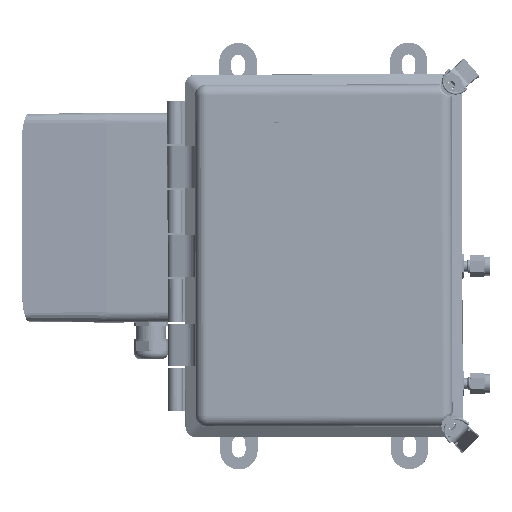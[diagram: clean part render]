
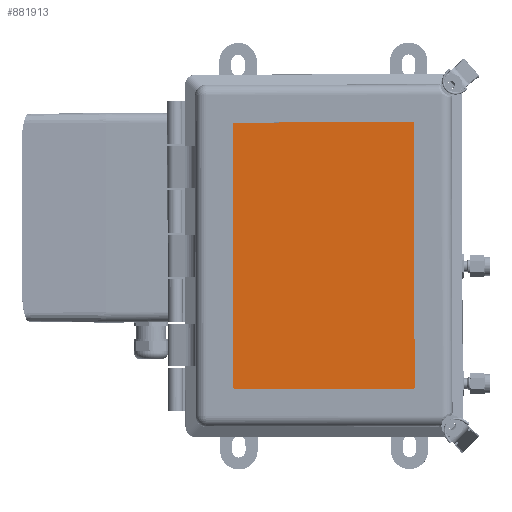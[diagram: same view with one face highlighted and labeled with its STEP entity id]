
A CAD part, top view. The second image highlights one B-rep face of the part: STEP entity #881913.
In plain terms, the highlighted planar face has unit normal (0, 0, 1).
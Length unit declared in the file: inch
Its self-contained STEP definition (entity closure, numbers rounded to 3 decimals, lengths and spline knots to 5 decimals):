
#2412 = VERTEX_POINT ( 'NONE', #882107 ) ;
#6236 = DIRECTION ( 'NONE',  ( -0.706, -0.709, 0. ) ) ;
#9386 = CARTESIAN_POINT ( 'NONE',  ( 3.13922, 3.51937, 4.13 ) ) ;
#19858 = LINE ( 'NONE', #794737, #543323 ) ;
#22627 = DIRECTION ( 'NONE',  ( 0.709, -0.706, 0. ) ) ;
#29318 = EDGE_LOOP ( 'NONE', ( #116690, #159191, #881882, #638862, #201734, #309464 ) ) ;
#47702 = VERTEX_POINT ( 'NONE', #106584 ) ;
#54958 = CARTESIAN_POINT ( 'NONE',  ( 3.1382, 4.01937, 4.13 ) ) ;
#80904 = LINE ( 'NONE', #505176, #572101 ) ;
#81704 = EDGE_CURVE ( 'NONE', #326672, #2412, #80904, .T. ) ;
#100966 = CARTESIAN_POINT ( 'NONE',  ( 2.6382, 4.01835, 4.13 ) ) ;
#101225 = EDGE_CURVE ( 'NONE', #314033, #326672, #174734, .T. ) ;
#106584 = CARTESIAN_POINT ( 'NONE',  ( -2.34653, -3.49181, 4.13 ) ) ;
#116690 = ORIENTED_EDGE ( 'NONE', *, *, #130974, .F. ) ;
#128524 = VECTOR ( 'NONE', #541690, 39.37008 ) ;
#130974 = EDGE_CURVE ( 'NONE', #47702, #597407, #495514, .T. ) ;
#141180 = CARTESIAN_POINT ( 'NONE',  ( 3.15346, -3.48062, 4.13 ) ) ;
#159191 = ORIENTED_EDGE ( 'NONE', *, *, #625125, .F. ) ;
#174734 = LINE ( 'NONE', #100966, #694242 ) ;
#184633 = CARTESIAN_POINT ( 'NONE',  ( 2.6382, 4.01835, 4.13 ) ) ;
#201734 = ORIENTED_EDGE ( 'NONE', *, *, #101225, .F. ) ;
#215274 = EDGE_CURVE ( 'NONE', #597407, #314033, #814046, .T. ) ;
#268179 = VECTOR ( 'NONE', #647551, 39.37008 ) ;
#309464 = ORIENTED_EDGE ( 'NONE', *, *, #215274, .F. ) ;
#314033 = VERTEX_POINT ( 'NONE', #184633 ) ;
#326672 = VERTEX_POINT ( 'NONE', #9386 ) ;
#327167 = DIRECTION ( 'NONE',  ( -0.002, 1., 0. ) ) ;
#396373 = FACE_OUTER_BOUND ( 'NONE', #29318, .T. ) ;
#405457 = DIRECTION ( 'NONE',  ( 0., 0., -1. ) ) ;
#409503 = CARTESIAN_POINT ( 'NONE',  ( -2.36179, 4.00818, 4.13 ) ) ;
#435642 = VECTOR ( 'NONE', #482536, 39.37008 ) ;
#463200 = AXIS2_PLACEMENT_3D ( 'NONE', #54958, #405457, #327167 ) ;
#482536 = DIRECTION ( 'NONE',  ( -1., -0.002, 0. ) ) ;
#495514 = LINE ( 'NONE', #578361, #268179 ) ;
#496083 = DIRECTION ( 'NONE',  ( 0.002, -1., 0. ) ) ;
#505176 = CARTESIAN_POINT ( 'NONE',  ( 3.1382, 4.01937, 4.13 ) ) ;
#541690 = DIRECTION ( 'NONE',  ( 1., 0.002, 0. ) ) ;
#543323 = VECTOR ( 'NONE', #6236, 39.37008 ) ;
#572101 = VECTOR ( 'NONE', #496083, 39.37008 ) ;
#578361 = CARTESIAN_POINT ( 'NONE',  ( -2.36179, 4.00818, 4.13 ) ) ;
#597407 = VERTEX_POINT ( 'NONE', #409503 ) ;
#625125 = EDGE_CURVE ( 'NONE', #815888, #47702, #773000, .T. ) ;
#632339 = CARTESIAN_POINT ( 'NONE',  ( 2.65346, -3.48163, 4.13 ) ) ;
#638862 = ORIENTED_EDGE ( 'NONE', *, *, #81704, .F. ) ;
#647551 = DIRECTION ( 'NONE',  ( -0.002, 1., 0. ) ) ;
#682344 = PLANE ( 'NONE',  #463200 ) ;
#694242 = VECTOR ( 'NONE', #22627, 39.37008 ) ;
#773000 = LINE ( 'NONE', #141180, #435642 ) ;
#794737 = CARTESIAN_POINT ( 'NONE',  ( 3.15245, -2.98062, 4.13 ) ) ;
#814046 = LINE ( 'NONE', #883105, #128524 ) ;
#815888 = VERTEX_POINT ( 'NONE', #632339 ) ;
#881882 = ORIENTED_EDGE ( 'NONE', *, *, #901266, .F. ) ;
#881913 = ADVANCED_FACE ( 'NONE', ( #396373 ), #682344, .F. ) ;
#882107 = CARTESIAN_POINT ( 'NONE',  ( 3.15245, -2.98062, 4.13 ) ) ;
#883105 = CARTESIAN_POINT ( 'NONE',  ( 3.1382, 4.01937, 4.13 ) ) ;
#901266 = EDGE_CURVE ( 'NONE', #2412, #815888, #19858, .T. ) ;
